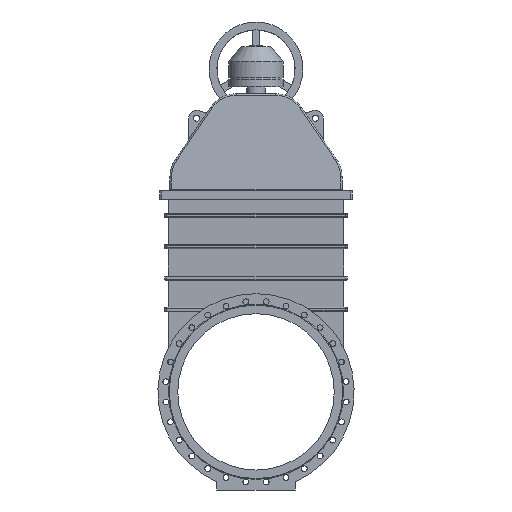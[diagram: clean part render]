
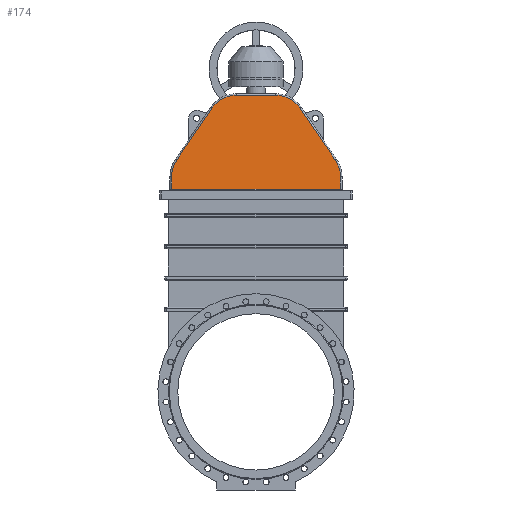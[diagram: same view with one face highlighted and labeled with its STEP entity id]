
A CAD part, front view. The second image highlights one B-rep face of the part: STEP entity #174.
In plain terms, the highlighted planar face has unit normal (0, -0.996, 0.087).
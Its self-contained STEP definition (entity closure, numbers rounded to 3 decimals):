
#174=ADVANCED_FACE('',(#3003),#3005,.T.);
#3003=FACE_BOUND('',#3004,.T.);
#3004=EDGE_LOOP('',(#8156,#8157,#8158,#8159,#8160,#8161,#8162,#8163,#8164,#8165));
#3005=PLANE('',#3006);
#3006=AXIS2_PLACEMENT_3D('',#3007,#3008,#3009);
#3007=CARTESIAN_POINT('',(-550.,-426.742,-1591.423));
#3008=DIRECTION('',(0.,-0.996,0.087));
#3009=DIRECTION('',(1.,0.,0.));
#8156=ORIENTED_EDGE('',*,*,#9559,.T.);
#8157=ORIENTED_EDGE('',*,*,#9560,.T.);
#8158=ORIENTED_EDGE('',*,*,#9561,.T.);
#8159=ORIENTED_EDGE('',*,*,#9562,.T.);
#8160=ORIENTED_EDGE('',*,*,#9545,.T.);
#8161=ORIENTED_EDGE('',*,*,#9563,.T.);
#8162=ORIENTED_EDGE('',*,*,#9564,.T.);
#8163=ORIENTED_EDGE('',*,*,#9565,.T.);
#8164=ORIENTED_EDGE('',*,*,#9566,.T.);
#8165=ORIENTED_EDGE('',*,*,#9567,.T.);
#9545=EDGE_CURVE('',#10266,#10267,#10268,.T.);
#9559=EDGE_CURVE('',#10290,#10291,#10292,.T.);
#9560=EDGE_CURVE('',#10291,#10293,#10294,.T.);
#9561=EDGE_CURVE('',#10293,#10295,#10296,.T.);
#9562=EDGE_CURVE('',#10295,#10266,#10297,.T.);
#9563=EDGE_CURVE('',#10267,#10298,#10299,.T.);
#9564=EDGE_CURVE('',#10298,#10300,#10301,.T.);
#9565=EDGE_CURVE('',#10300,#10302,#10303,.T.);
#9566=EDGE_CURVE('',#10302,#10304,#10305,.T.);
#9567=EDGE_CURVE('',#10304,#10290,#10306,.T.);
#10266=VERTEX_POINT('',#11570);
#10267=VERTEX_POINT('',#11571);
#10268=LINE('',#11572,#11573);
#10290=VERTEX_POINT('',#11632);
#10291=VERTEX_POINT('',#11633);
#10292=LINE('',#11634,#11635);
#10293=VERTEX_POINT('',#11637);
#10294=(BOUNDED_CURVE()B_SPLINE_CURVE(3,
(#11638,#11639,#11640,#11641),
.UNSPECIFIED.,.F.,.F.)B_SPLINE_CURVE_WITH_KNOTS((4,4),
(0.,1.),
.UNSPECIFIED.)CURVE()GEOMETRIC_REPRESENTATION_ITEM()RATIONAL_B_SPLINE_CURVE((1.,
0.971,0.971,1.))REPRESENTATION_ITEM(''));
#10295=VERTEX_POINT('',#11642);
#10296=LINE('',#11643,#11644);
#10297=(BOUNDED_CURVE()B_SPLINE_CURVE(3,
(#11646,#11647,#11648,#11649),
.UNSPECIFIED.,.F.,.F.)B_SPLINE_CURVE_WITH_KNOTS((4,4),
(0.,1.),
.UNSPECIFIED.)CURVE()GEOMETRIC_REPRESENTATION_ITEM()RATIONAL_B_SPLINE_CURVE((1.,
0.922,0.922,1.))REPRESENTATION_ITEM(''));
#10298=VERTEX_POINT('',#11650);
#10299=(BOUNDED_CURVE()B_SPLINE_CURVE(3,
(#11651,#11652,#11653,#11654),
.UNSPECIFIED.,.F.,.F.)B_SPLINE_CURVE_WITH_KNOTS((4,4),
(0.,1.),
.UNSPECIFIED.)CURVE()GEOMETRIC_REPRESENTATION_ITEM()RATIONAL_B_SPLINE_CURVE((1.,
0.922,0.922,1.))REPRESENTATION_ITEM(''));
#10300=VERTEX_POINT('',#11655);
#10301=LINE('',#11656,#11657);
#10302=VERTEX_POINT('',#11659);
#10303=(BOUNDED_CURVE()B_SPLINE_CURVE(3,
(#11660,#11661,#11662,#11663),
.UNSPECIFIED.,.F.,.F.)B_SPLINE_CURVE_WITH_KNOTS((4,4),
(0.,1.),
.UNSPECIFIED.)CURVE()GEOMETRIC_REPRESENTATION_ITEM()RATIONAL_B_SPLINE_CURVE((1.,
0.971,0.971,1.))REPRESENTATION_ITEM(''));
#10304=VERTEX_POINT('',#11664);
#10305=LINE('',#11665,#11666);
#10306=LINE('',#11668,#11669);
#11570=CARTESIAN_POINT('',(125.,-121.556,1896.872));
#11571=CARTESIAN_POINT('',(-125.,-121.556,1896.872));
#11572=CARTESIAN_POINT('',(125.,-121.556,1896.872));
#11573=VECTOR('',#11574,1.);
#11574=DIRECTION('',(-1.,0.,0.));
#11632=CARTESIAN_POINT('',(540.,-174.201,1295.128));
#11633=CARTESIAN_POINT('',(540.,-167.178,1375.404));
#11634=CARTESIAN_POINT('',(540.,-174.201,1295.128));
#11635=VECTOR('',#11636,1.);
#11636=DIRECTION('',(0.,0.087,0.996));
#11637=CARTESIAN_POINT('',(507.204,-157.842,1482.113));
#11638=CARTESIAN_POINT('',(540.,-167.178,1375.404));
#11639=CARTESIAN_POINT('',(540.,-163.824,1413.743));
#11640=CARTESIAN_POINT('',(528.737,-160.618,1450.391));
#11641=CARTESIAN_POINT('',(507.204,-157.842,1482.113));
#11642=CARTESIAN_POINT('',(282.204,-128.843,1813.581));
#11643=CARTESIAN_POINT('',(507.204,-157.842,1482.113));
#11644=VECTOR('',#11645,1.);
#11645=DIRECTION('',(-0.56,0.072,0.825));
#11646=CARTESIAN_POINT('',(282.204,-128.843,1813.581));
#11647=CARTESIAN_POINT('',(246.097,-124.189,1866.773));
#11648=CARTESIAN_POINT('',(189.289,-121.556,1896.872));
#11649=CARTESIAN_POINT('',(125.,-121.556,1896.872));
#11650=CARTESIAN_POINT('',(-282.204,-128.843,1813.581));
#11651=CARTESIAN_POINT('',(-125.,-121.556,1896.872));
#11652=CARTESIAN_POINT('',(-189.289,-121.556,1896.872));
#11653=CARTESIAN_POINT('',(-246.097,-124.189,1866.773));
#11654=CARTESIAN_POINT('',(-282.204,-128.843,1813.581));
#11655=CARTESIAN_POINT('',(-507.204,-157.842,1482.113));
#11656=CARTESIAN_POINT('',(-282.204,-128.843,1813.581));
#11657=VECTOR('',#11658,1.);
#11658=DIRECTION('',(-0.56,-0.072,-0.825));
#11659=CARTESIAN_POINT('',(-540.,-167.178,1375.404));
#11660=CARTESIAN_POINT('',(-507.204,-157.842,1482.113));
#11661=CARTESIAN_POINT('',(-528.737,-160.618,1450.391));
#11662=CARTESIAN_POINT('',(-540.,-163.824,1413.743));
#11663=CARTESIAN_POINT('',(-540.,-167.178,1375.404));
#11664=CARTESIAN_POINT('',(-540.,-174.201,1295.128));
#11665=CARTESIAN_POINT('',(-540.,-167.178,1375.404));
#11666=VECTOR('',#11667,1.);
#11667=DIRECTION('',(0.,-0.087,-0.996));
#11668=CARTESIAN_POINT('',(-540.,-174.201,1295.128));
#11669=VECTOR('',#11670,1.);
#11670=DIRECTION('',(1.,0.,0.));
